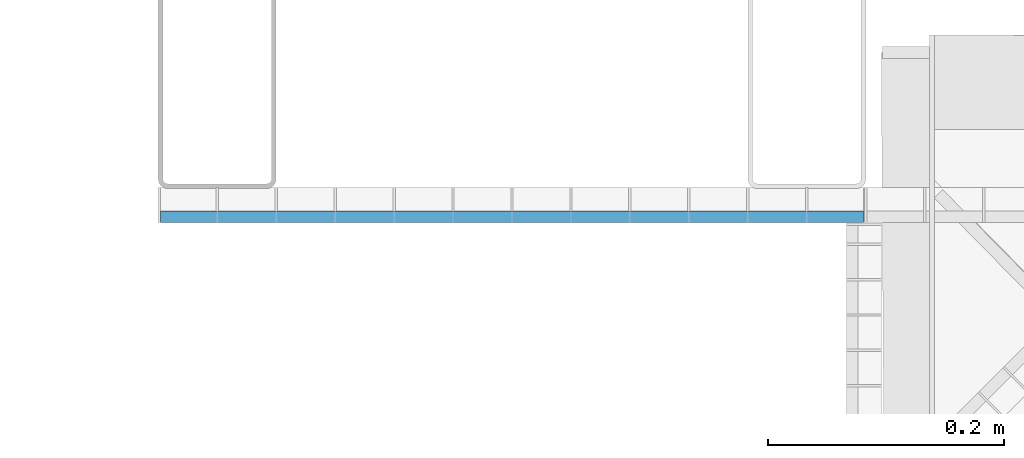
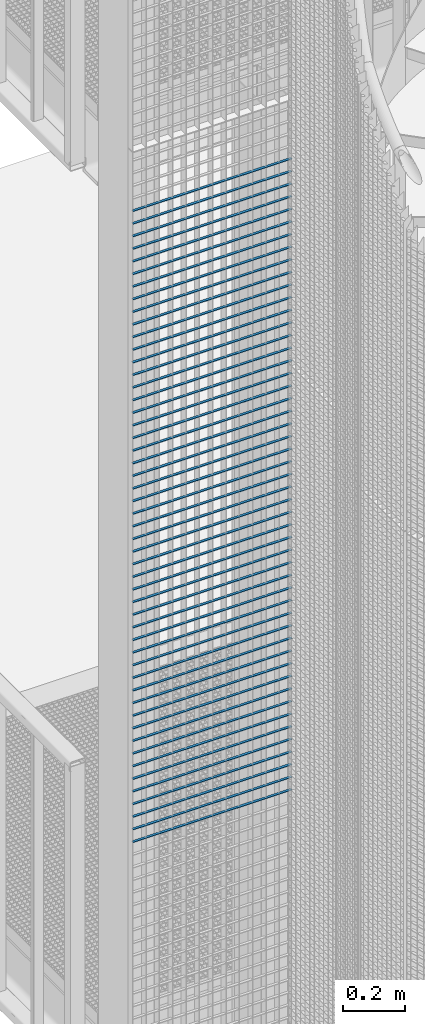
# One storey, part 335 of 1183: 51 beams, 51 elements without a shape of their own.
"""IFC2X3 building model written with IfcOpenShell, lengths in millimetres."""

from ifc_helpers import new_model, si_unit, frame, origin_with_axes, origin_2d_with_axis, place, context, subcontext, project, spatial, rectangle, extrude, material, type_object, element, aggregate, save


model = new_model("IFC2X3")

# Units and contexts
model_context = context("Model", 3, precision=1e-05, world=origin_with_axes())
body_context = subcontext(model_context, "Body", "Model", "MODEL_VIEW")
ifc_project = project(units=[si_unit("LENGTHUNIT", "METRE", prefix="MILLI"), si_unit("AREAUNIT", "SQUARE_METRE"), si_unit("VOLUMEUNIT", "CUBIC_METRE"), si_unit("MASSUNIT", "GRAM", prefix="KILO"), si_unit("TIMEUNIT", "SECOND"), si_unit("PLANEANGLEUNIT", "RADIAN"), si_unit("SOLIDANGLEUNIT", "STERADIAN"), si_unit("THERMODYNAMICTEMPERATUREUNIT", "DEGREE_CELSIUS"), si_unit("LUMINOUSINTENSITYUNIT", "LUMEN")], contexts=[model_context])

# Site, building, storey
site_placement = place(None, origin_with_axes())
site = spatial("IfcSite", under=ifc_project, at=site_placement, Name="Undefined", CompositionType="ELEMENT")
building_placement = place(site_placement, origin_with_axes())
building = spatial("IfcBuilding", under=site, at=building_placement, Name="Undefined", CompositionType="ELEMENT")
storey_placement = place(building_placement, origin_with_axes())
storey = spatial("IfcBuildingStorey", under=building, at=storey_placement, Name="Undefined", CompositionType="ELEMENT", Elevation=0.0)

# Assembly, beam
assembly_1_placement = place(storey_placement, origin_with_axes())
assembly_1 = element("IfcElementAssembly", 1, at=assembly_1_placement, inside=storey, AssemblyPlace="NOTDEFINED", PredefinedType="NOTDEFINED")
ifc_material = material(Name="STEEL/S235JR")
beam_type = type_object("IfcBeamType", Name="PL2*10", PredefinedType="NOTDEFINED")
beam_1_placement = place(assembly_1_placement, frame((20647.930410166, 876.014689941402, 9804.998), z_axis=(0.0, -1.0, 0.0), x_axis=(-1.0, 0.0, 0.0)))
beam_1 = element("IfcBeam", 2, at=beam_1_placement, type_object=beam_type, material=ifc_material, Name="ENTRETOISE", context=body_context, shape_type="SweptSolid", body=[
    extrude(rectangle(XDim=2.0, YDim=10.0, at=origin_2d_with_axis()), frame((596.0, 0.0, 0.0), z_axis=(-1.0, 0.0, 0.0), x_axis=(0.0, -1.0, 0.0)), (0.0, 0.0, 1.0), 596.0),
])
aggregate(assembly_1, [beam_1])

assembly_2_placement = place(storey_placement, origin_with_axes())
assembly_2 = element("IfcElementAssembly", 3, at=assembly_2_placement, inside=storey, AssemblyPlace="NOTDEFINED", PredefinedType="NOTDEFINED")
beam_2_placement = place(assembly_2_placement, frame((20647.930410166, 876.014689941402, 9754.998), z_axis=(0.0, -1.0, 0.0), x_axis=(-1.0, 0.0, 0.0)))
beam_2 = element("IfcBeam", 4, at=beam_2_placement, type_object=beam_type, material=ifc_material, Name="ENTRETOISE", context=body_context, shape_type="SweptSolid", body=[
    extrude(rectangle(XDim=2.0, YDim=10.0, at=origin_2d_with_axis()), frame((596.0, 0.0, 0.0), z_axis=(-1.0, 0.0, 0.0), x_axis=(0.0, -1.0, 0.0)), (0.0, 0.0, 1.0), 596.0),
])
aggregate(assembly_2, [beam_2])

assembly_3_placement = place(storey_placement, origin_with_axes())
assembly_3 = element("IfcElementAssembly", 5, at=assembly_3_placement, inside=storey, AssemblyPlace="NOTDEFINED", PredefinedType="NOTDEFINED")
beam_3_placement = place(assembly_3_placement, frame((20647.930410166, 876.014689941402, 9704.998), z_axis=(0.0, -1.0, 0.0), x_axis=(-1.0, 0.0, 0.0)))
beam_3 = element("IfcBeam", 6, at=beam_3_placement, type_object=beam_type, material=ifc_material, Name="ENTRETOISE", context=body_context, shape_type="SweptSolid", body=[
    extrude(rectangle(XDim=2.0, YDim=10.0, at=origin_2d_with_axis()), frame((596.0, 0.0, 0.0), z_axis=(-1.0, 0.0, 0.0), x_axis=(0.0, -1.0, 0.0)), (0.0, 0.0, 1.0), 596.0),
])
aggregate(assembly_3, [beam_3])

assembly_4_placement = place(storey_placement, origin_with_axes())
assembly_4 = element("IfcElementAssembly", 7, at=assembly_4_placement, inside=storey, AssemblyPlace="NOTDEFINED", PredefinedType="NOTDEFINED")
beam_4_placement = place(assembly_4_placement, frame((20647.930410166, 876.014689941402, 9654.998), z_axis=(0.0, -1.0, 0.0), x_axis=(-1.0, 0.0, 0.0)))
beam_4 = element("IfcBeam", 8, at=beam_4_placement, type_object=beam_type, material=ifc_material, Name="ENTRETOISE", context=body_context, shape_type="SweptSolid", body=[
    extrude(rectangle(XDim=2.0, YDim=10.0, at=origin_2d_with_axis()), frame((596.0, 0.0, 0.0), z_axis=(-1.0, 0.0, 0.0), x_axis=(0.0, -1.0, 0.0)), (0.0, 0.0, 1.0), 596.0),
])
aggregate(assembly_4, [beam_4])

assembly_5_placement = place(storey_placement, origin_with_axes())
assembly_5 = element("IfcElementAssembly", 9, at=assembly_5_placement, inside=storey, AssemblyPlace="NOTDEFINED", PredefinedType="NOTDEFINED")
beam_5_placement = place(assembly_5_placement, frame((20647.930410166, 876.014689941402, 9604.998), z_axis=(0.0, -1.0, 0.0), x_axis=(-1.0, 0.0, 0.0)))
beam_5 = element("IfcBeam", 10, at=beam_5_placement, type_object=beam_type, material=ifc_material, Name="ENTRETOISE", context=body_context, shape_type="SweptSolid", body=[
    extrude(rectangle(XDim=2.0, YDim=10.0, at=origin_2d_with_axis()), frame((596.0, 0.0, 0.0), z_axis=(-1.0, 0.0, 0.0), x_axis=(0.0, -1.0, 0.0)), (0.0, 0.0, 1.0), 596.0),
])
aggregate(assembly_5, [beam_5])

assembly_6_placement = place(storey_placement, origin_with_axes())
assembly_6 = element("IfcElementAssembly", 11, at=assembly_6_placement, inside=storey, AssemblyPlace="NOTDEFINED", PredefinedType="NOTDEFINED")
beam_6_placement = place(assembly_6_placement, frame((20647.930410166, 876.014689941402, 9554.998), z_axis=(0.0, -1.0, 0.0), x_axis=(-1.0, 0.0, 0.0)))
beam_6 = element("IfcBeam", 12, at=beam_6_placement, type_object=beam_type, material=ifc_material, Name="ENTRETOISE", context=body_context, shape_type="SweptSolid", body=[
    extrude(rectangle(XDim=2.0, YDim=10.0, at=origin_2d_with_axis()), frame((596.0, 0.0, 0.0), z_axis=(-1.0, 0.0, 0.0), x_axis=(0.0, -1.0, 0.0)), (0.0, 0.0, 1.0), 596.0),
])
aggregate(assembly_6, [beam_6])

assembly_7_placement = place(storey_placement, origin_with_axes())
assembly_7 = element("IfcElementAssembly", 13, at=assembly_7_placement, inside=storey, AssemblyPlace="NOTDEFINED", PredefinedType="NOTDEFINED")
beam_7_placement = place(assembly_7_placement, frame((20647.930410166, 876.014689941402, 9504.998), z_axis=(0.0, -1.0, 0.0), x_axis=(-1.0, 0.0, 0.0)))
beam_7 = element("IfcBeam", 14, at=beam_7_placement, type_object=beam_type, material=ifc_material, Name="ENTRETOISE", context=body_context, shape_type="SweptSolid", body=[
    extrude(rectangle(XDim=2.0, YDim=10.0, at=origin_2d_with_axis()), frame((596.0, 0.0, 0.0), z_axis=(-1.0, 0.0, 0.0), x_axis=(0.0, -1.0, 0.0)), (0.0, 0.0, 1.0), 596.0),
])
aggregate(assembly_7, [beam_7])

assembly_8_placement = place(storey_placement, origin_with_axes())
assembly_8 = element("IfcElementAssembly", 15, at=assembly_8_placement, inside=storey, AssemblyPlace="NOTDEFINED", PredefinedType="NOTDEFINED")
beam_8_placement = place(assembly_8_placement, frame((20647.930410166, 876.014689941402, 9454.998), z_axis=(0.0, -1.0, 0.0), x_axis=(-1.0, 0.0, 0.0)))
beam_8 = element("IfcBeam", 16, at=beam_8_placement, type_object=beam_type, material=ifc_material, Name="ENTRETOISE", context=body_context, shape_type="SweptSolid", body=[
    extrude(rectangle(XDim=2.0, YDim=10.0, at=origin_2d_with_axis()), frame((596.0, 0.0, 0.0), z_axis=(-1.0, 0.0, 0.0), x_axis=(0.0, -1.0, 0.0)), (0.0, 0.0, 1.0), 596.0),
])
aggregate(assembly_8, [beam_8])

assembly_9_placement = place(storey_placement, origin_with_axes())
assembly_9 = element("IfcElementAssembly", 17, at=assembly_9_placement, inside=storey, AssemblyPlace="NOTDEFINED", PredefinedType="NOTDEFINED")
beam_9_placement = place(assembly_9_placement, frame((20647.930410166, 876.014689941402, 9404.998), z_axis=(0.0, -1.0, 0.0), x_axis=(-1.0, 0.0, 0.0)))
beam_9 = element("IfcBeam", 18, at=beam_9_placement, type_object=beam_type, material=ifc_material, Name="ENTRETOISE", context=body_context, shape_type="SweptSolid", body=[
    extrude(rectangle(XDim=2.0, YDim=10.0, at=origin_2d_with_axis()), frame((596.0, 0.0, 0.0), z_axis=(-1.0, 0.0, 0.0), x_axis=(0.0, -1.0, 0.0)), (0.0, 0.0, 1.0), 596.0),
])
aggregate(assembly_9, [beam_9])

assembly_10_placement = place(storey_placement, origin_with_axes())
assembly_10 = element("IfcElementAssembly", 19, at=assembly_10_placement, inside=storey, AssemblyPlace="NOTDEFINED", PredefinedType="NOTDEFINED")
beam_10_placement = place(assembly_10_placement, frame((20647.930410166, 876.014689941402, 9354.998), z_axis=(0.0, -1.0, 0.0), x_axis=(-1.0, 0.0, 0.0)))
beam_10 = element("IfcBeam", 20, at=beam_10_placement, type_object=beam_type, material=ifc_material, Name="ENTRETOISE", context=body_context, shape_type="SweptSolid", body=[
    extrude(rectangle(XDim=2.0, YDim=10.0, at=origin_2d_with_axis()), frame((596.0, 0.0, 0.0), z_axis=(-1.0, 0.0, 0.0), x_axis=(0.0, -1.0, 0.0)), (0.0, 0.0, 1.0), 596.0),
])
aggregate(assembly_10, [beam_10])

assembly_11_placement = place(storey_placement, origin_with_axes())
assembly_11 = element("IfcElementAssembly", 21, at=assembly_11_placement, inside=storey, AssemblyPlace="NOTDEFINED", PredefinedType="NOTDEFINED")
beam_11_placement = place(assembly_11_placement, frame((20647.930410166, 876.014689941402, 9304.998), z_axis=(0.0, -1.0, 0.0), x_axis=(-1.0, 0.0, 0.0)))
beam_11 = element("IfcBeam", 22, at=beam_11_placement, type_object=beam_type, material=ifc_material, Name="ENTRETOISE", context=body_context, shape_type="SweptSolid", body=[
    extrude(rectangle(XDim=2.0, YDim=10.0, at=origin_2d_with_axis()), frame((596.0, 0.0, 0.0), z_axis=(-1.0, 0.0, 0.0), x_axis=(0.0, -1.0, 0.0)), (0.0, 0.0, 1.0), 596.0),
])
aggregate(assembly_11, [beam_11])

assembly_12_placement = place(storey_placement, origin_with_axes())
assembly_12 = element("IfcElementAssembly", 23, at=assembly_12_placement, inside=storey, AssemblyPlace="NOTDEFINED", PredefinedType="NOTDEFINED")
beam_12_placement = place(assembly_12_placement, frame((20647.930410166, 876.014689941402, 9254.998), z_axis=(0.0, -1.0, 0.0), x_axis=(-1.0, 0.0, 0.0)))
beam_12 = element("IfcBeam", 24, at=beam_12_placement, type_object=beam_type, material=ifc_material, Name="ENTRETOISE", context=body_context, shape_type="SweptSolid", body=[
    extrude(rectangle(XDim=2.0, YDim=10.0, at=origin_2d_with_axis()), frame((596.0, 0.0, 0.0), z_axis=(-1.0, 0.0, 0.0), x_axis=(0.0, -1.0, 0.0)), (0.0, 0.0, 1.0), 596.0),
])
aggregate(assembly_12, [beam_12])

assembly_13_placement = place(storey_placement, origin_with_axes())
assembly_13 = element("IfcElementAssembly", 25, at=assembly_13_placement, inside=storey, AssemblyPlace="NOTDEFINED", PredefinedType="NOTDEFINED")
beam_13_placement = place(assembly_13_placement, frame((20647.930410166, 876.014689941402, 9204.998), z_axis=(0.0, -1.0, 0.0), x_axis=(-1.0, 0.0, 0.0)))
beam_13 = element("IfcBeam", 26, at=beam_13_placement, type_object=beam_type, material=ifc_material, Name="ENTRETOISE", context=body_context, shape_type="SweptSolid", body=[
    extrude(rectangle(XDim=2.0, YDim=10.0, at=origin_2d_with_axis()), frame((596.0, 0.0, 0.0), z_axis=(-1.0, 0.0, 0.0), x_axis=(0.0, -1.0, 0.0)), (0.0, 0.0, 1.0), 596.0),
])
aggregate(assembly_13, [beam_13])

assembly_14_placement = place(storey_placement, origin_with_axes())
assembly_14 = element("IfcElementAssembly", 27, at=assembly_14_placement, inside=storey, AssemblyPlace="NOTDEFINED", PredefinedType="NOTDEFINED")
beam_14_placement = place(assembly_14_placement, frame((20647.930410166, 876.014689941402, 9154.998), z_axis=(0.0, -1.0, 0.0), x_axis=(-1.0, 0.0, 0.0)))
beam_14 = element("IfcBeam", 28, at=beam_14_placement, type_object=beam_type, material=ifc_material, Name="ENTRETOISE", context=body_context, shape_type="SweptSolid", body=[
    extrude(rectangle(XDim=2.0, YDim=10.0, at=origin_2d_with_axis()), frame((596.0, 0.0, 0.0), z_axis=(-1.0, 0.0, 0.0), x_axis=(0.0, -1.0, 0.0)), (0.0, 0.0, 1.0), 596.0),
])
aggregate(assembly_14, [beam_14])

assembly_15_placement = place(storey_placement, origin_with_axes())
assembly_15 = element("IfcElementAssembly", 29, at=assembly_15_placement, inside=storey, AssemblyPlace="NOTDEFINED", PredefinedType="NOTDEFINED")
beam_15_placement = place(assembly_15_placement, frame((20647.930410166, 876.014689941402, 9104.998), z_axis=(0.0, -1.0, 0.0), x_axis=(-1.0, 0.0, 0.0)))
beam_15 = element("IfcBeam", 30, at=beam_15_placement, type_object=beam_type, material=ifc_material, Name="ENTRETOISE", context=body_context, shape_type="SweptSolid", body=[
    extrude(rectangle(XDim=2.0, YDim=10.0, at=origin_2d_with_axis()), frame((596.0, 0.0, 0.0), z_axis=(-1.0, 0.0, 0.0), x_axis=(0.0, -1.0, 0.0)), (0.0, 0.0, 1.0), 596.0),
])
aggregate(assembly_15, [beam_15])

assembly_16_placement = place(storey_placement, origin_with_axes())
assembly_16 = element("IfcElementAssembly", 31, at=assembly_16_placement, inside=storey, AssemblyPlace="NOTDEFINED", PredefinedType="NOTDEFINED")
beam_16_placement = place(assembly_16_placement, frame((20647.930410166, 876.014689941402, 9054.998), z_axis=(0.0, -1.0, 0.0), x_axis=(-1.0, 0.0, 0.0)))
beam_16 = element("IfcBeam", 32, at=beam_16_placement, type_object=beam_type, material=ifc_material, Name="ENTRETOISE", context=body_context, shape_type="SweptSolid", body=[
    extrude(rectangle(XDim=2.0, YDim=10.0, at=origin_2d_with_axis()), frame((596.0, 0.0, 0.0), z_axis=(-1.0, 0.0, 0.0), x_axis=(0.0, -1.0, 0.0)), (0.0, 0.0, 1.0), 596.0),
])
aggregate(assembly_16, [beam_16])

assembly_17_placement = place(storey_placement, origin_with_axes())
assembly_17 = element("IfcElementAssembly", 33, at=assembly_17_placement, inside=storey, AssemblyPlace="NOTDEFINED", PredefinedType="NOTDEFINED")
beam_17_placement = place(assembly_17_placement, frame((20647.930410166, 876.014689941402, 9004.998), z_axis=(0.0, -1.0, 0.0), x_axis=(-1.0, 0.0, 0.0)))
beam_17 = element("IfcBeam", 34, at=beam_17_placement, type_object=beam_type, material=ifc_material, Name="ENTRETOISE", context=body_context, shape_type="SweptSolid", body=[
    extrude(rectangle(XDim=2.0, YDim=10.0, at=origin_2d_with_axis()), frame((596.0, 0.0, 0.0), z_axis=(-1.0, 0.0, 0.0), x_axis=(0.0, -1.0, 0.0)), (0.0, 0.0, 1.0), 596.0),
])
aggregate(assembly_17, [beam_17])

assembly_18_placement = place(storey_placement, origin_with_axes())
assembly_18 = element("IfcElementAssembly", 35, at=assembly_18_placement, inside=storey, AssemblyPlace="NOTDEFINED", PredefinedType="NOTDEFINED")
beam_18_placement = place(assembly_18_placement, frame((20647.930410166, 876.014689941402, 8954.998), z_axis=(0.0, -1.0, 0.0), x_axis=(-1.0, 0.0, 0.0)))
beam_18 = element("IfcBeam", 36, at=beam_18_placement, type_object=beam_type, material=ifc_material, Name="ENTRETOISE", context=body_context, shape_type="SweptSolid", body=[
    extrude(rectangle(XDim=2.0, YDim=10.0, at=origin_2d_with_axis()), frame((596.0, 0.0, 0.0), z_axis=(-1.0, 0.0, 0.0), x_axis=(0.0, -1.0, 0.0)), (0.0, 0.0, 1.0), 596.0),
])
aggregate(assembly_18, [beam_18])

assembly_19_placement = place(storey_placement, origin_with_axes())
assembly_19 = element("IfcElementAssembly", 37, at=assembly_19_placement, inside=storey, AssemblyPlace="NOTDEFINED", PredefinedType="NOTDEFINED")
beam_19_placement = place(assembly_19_placement, frame((20647.930410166, 876.014689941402, 8904.998), z_axis=(0.0, -1.0, 0.0), x_axis=(-1.0, 0.0, 0.0)))
beam_19 = element("IfcBeam", 38, at=beam_19_placement, type_object=beam_type, material=ifc_material, Name="ENTRETOISE", context=body_context, shape_type="SweptSolid", body=[
    extrude(rectangle(XDim=2.0, YDim=10.0, at=origin_2d_with_axis()), frame((596.0, 0.0, 0.0), z_axis=(-1.0, 0.0, 0.0), x_axis=(0.0, -1.0, 0.0)), (0.0, 0.0, 1.0), 596.0),
])
aggregate(assembly_19, [beam_19])

assembly_20_placement = place(storey_placement, origin_with_axes())
assembly_20 = element("IfcElementAssembly", 39, at=assembly_20_placement, inside=storey, AssemblyPlace="NOTDEFINED", PredefinedType="NOTDEFINED")
beam_20_placement = place(assembly_20_placement, frame((20647.930410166, 876.014689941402, 8854.998), z_axis=(0.0, -1.0, 0.0), x_axis=(-1.0, 0.0, 0.0)))
beam_20 = element("IfcBeam", 40, at=beam_20_placement, type_object=beam_type, material=ifc_material, Name="ENTRETOISE", context=body_context, shape_type="SweptSolid", body=[
    extrude(rectangle(XDim=2.0, YDim=10.0, at=origin_2d_with_axis()), frame((596.0, 0.0, 0.0), z_axis=(-1.0, 0.0, 0.0), x_axis=(0.0, -1.0, 0.0)), (0.0, 0.0, 1.0), 596.0),
])
aggregate(assembly_20, [beam_20])

assembly_21_placement = place(storey_placement, origin_with_axes())
assembly_21 = element("IfcElementAssembly", 41, at=assembly_21_placement, inside=storey, AssemblyPlace="NOTDEFINED", PredefinedType="NOTDEFINED")
beam_21_placement = place(assembly_21_placement, frame((20647.930410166, 876.014689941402, 8804.998), z_axis=(0.0, -1.0, 0.0), x_axis=(-1.0, 0.0, 0.0)))
beam_21 = element("IfcBeam", 42, at=beam_21_placement, type_object=beam_type, material=ifc_material, Name="ENTRETOISE", context=body_context, shape_type="SweptSolid", body=[
    extrude(rectangle(XDim=2.0, YDim=10.0, at=origin_2d_with_axis()), frame((596.0, 0.0, 0.0), z_axis=(-1.0, 0.0, 0.0), x_axis=(0.0, -1.0, 0.0)), (0.0, 0.0, 1.0), 596.0),
])
aggregate(assembly_21, [beam_21])

assembly_22_placement = place(storey_placement, origin_with_axes())
assembly_22 = element("IfcElementAssembly", 43, at=assembly_22_placement, inside=storey, AssemblyPlace="NOTDEFINED", PredefinedType="NOTDEFINED")
beam_22_placement = place(assembly_22_placement, frame((20647.930410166, 876.014689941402, 8754.998), z_axis=(0.0, -1.0, 0.0), x_axis=(-1.0, 0.0, 0.0)))
beam_22 = element("IfcBeam", 44, at=beam_22_placement, type_object=beam_type, material=ifc_material, Name="ENTRETOISE", context=body_context, shape_type="SweptSolid", body=[
    extrude(rectangle(XDim=2.0, YDim=10.0, at=origin_2d_with_axis()), frame((596.0, 0.0, 0.0), z_axis=(-1.0, 0.0, 0.0), x_axis=(0.0, -1.0, 0.0)), (0.0, 0.0, 1.0), 596.0),
])
aggregate(assembly_22, [beam_22])

assembly_23_placement = place(storey_placement, origin_with_axes())
assembly_23 = element("IfcElementAssembly", 45, at=assembly_23_placement, inside=storey, AssemblyPlace="NOTDEFINED", PredefinedType="NOTDEFINED")
beam_23_placement = place(assembly_23_placement, frame((20647.930410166, 876.014689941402, 8704.998), z_axis=(0.0, -1.0, 0.0), x_axis=(-1.0, 0.0, 0.0)))
beam_23 = element("IfcBeam", 46, at=beam_23_placement, type_object=beam_type, material=ifc_material, Name="ENTRETOISE", context=body_context, shape_type="SweptSolid", body=[
    extrude(rectangle(XDim=2.0, YDim=10.0, at=origin_2d_with_axis()), frame((596.0, 0.0, 0.0), z_axis=(-1.0, 0.0, 0.0), x_axis=(0.0, -1.0, 0.0)), (0.0, 0.0, 1.0), 596.0),
])
aggregate(assembly_23, [beam_23])

assembly_24_placement = place(storey_placement, origin_with_axes())
assembly_24 = element("IfcElementAssembly", 47, at=assembly_24_placement, inside=storey, AssemblyPlace="NOTDEFINED", PredefinedType="NOTDEFINED")
beam_24_placement = place(assembly_24_placement, frame((20647.930410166, 876.014689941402, 8654.998), z_axis=(0.0, -1.0, 0.0), x_axis=(-1.0, 0.0, 0.0)))
beam_24 = element("IfcBeam", 48, at=beam_24_placement, type_object=beam_type, material=ifc_material, Name="ENTRETOISE", context=body_context, shape_type="SweptSolid", body=[
    extrude(rectangle(XDim=2.0, YDim=10.0, at=origin_2d_with_axis()), frame((596.0, 0.0, 0.0), z_axis=(-1.0, 0.0, 0.0), x_axis=(0.0, -1.0, 0.0)), (0.0, 0.0, 1.0), 596.0),
])
aggregate(assembly_24, [beam_24])

assembly_25_placement = place(storey_placement, origin_with_axes())
assembly_25 = element("IfcElementAssembly", 49, at=assembly_25_placement, inside=storey, AssemblyPlace="NOTDEFINED", PredefinedType="NOTDEFINED")
beam_25_placement = place(assembly_25_placement, frame((20647.930410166, 876.014689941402, 8604.998), z_axis=(0.0, -1.0, 0.0), x_axis=(-1.0, 0.0, 0.0)))
beam_25 = element("IfcBeam", 50, at=beam_25_placement, type_object=beam_type, material=ifc_material, Name="ENTRETOISE", context=body_context, shape_type="SweptSolid", body=[
    extrude(rectangle(XDim=2.0, YDim=10.0, at=origin_2d_with_axis()), frame((596.0, 0.0, 0.0), z_axis=(-1.0, 0.0, 0.0), x_axis=(0.0, -1.0, 0.0)), (0.0, 0.0, 1.0), 596.0),
])
aggregate(assembly_25, [beam_25])

assembly_26_placement = place(storey_placement, origin_with_axes())
assembly_26 = element("IfcElementAssembly", 51, at=assembly_26_placement, inside=storey, AssemblyPlace="NOTDEFINED", PredefinedType="NOTDEFINED")
beam_26_placement = place(assembly_26_placement, frame((20647.930410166, 876.014689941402, 8554.998), z_axis=(0.0, -1.0, 0.0), x_axis=(-1.0, 0.0, 0.0)))
beam_26 = element("IfcBeam", 52, at=beam_26_placement, type_object=beam_type, material=ifc_material, Name="ENTRETOISE", context=body_context, shape_type="SweptSolid", body=[
    extrude(rectangle(XDim=2.0, YDim=10.0, at=origin_2d_with_axis()), frame((596.0, 0.0, 0.0), z_axis=(-1.0, 0.0, 0.0), x_axis=(0.0, -1.0, 0.0)), (0.0, 0.0, 1.0), 596.0),
])
aggregate(assembly_26, [beam_26])

assembly_27_placement = place(storey_placement, origin_with_axes())
assembly_27 = element("IfcElementAssembly", 53, at=assembly_27_placement, inside=storey, AssemblyPlace="NOTDEFINED", PredefinedType="NOTDEFINED")
beam_27_placement = place(assembly_27_placement, frame((20647.930410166, 876.014689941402, 8504.998), z_axis=(0.0, -1.0, 0.0), x_axis=(-1.0, 0.0, 0.0)))
beam_27 = element("IfcBeam", 54, at=beam_27_placement, type_object=beam_type, material=ifc_material, Name="ENTRETOISE", context=body_context, shape_type="SweptSolid", body=[
    extrude(rectangle(XDim=2.0, YDim=10.0, at=origin_2d_with_axis()), frame((596.0, 0.0, 0.0), z_axis=(-1.0, 0.0, 0.0), x_axis=(0.0, -1.0, 0.0)), (0.0, 0.0, 1.0), 596.0),
])
aggregate(assembly_27, [beam_27])

assembly_28_placement = place(storey_placement, origin_with_axes())
assembly_28 = element("IfcElementAssembly", 55, at=assembly_28_placement, inside=storey, AssemblyPlace="NOTDEFINED", PredefinedType="NOTDEFINED")
beam_28_placement = place(assembly_28_placement, frame((20647.930410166, 876.014689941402, 8454.998), z_axis=(0.0, -1.0, 0.0), x_axis=(-1.0, 0.0, 0.0)))
beam_28 = element("IfcBeam", 56, at=beam_28_placement, type_object=beam_type, material=ifc_material, Name="ENTRETOISE", context=body_context, shape_type="SweptSolid", body=[
    extrude(rectangle(XDim=2.0, YDim=10.0, at=origin_2d_with_axis()), frame((596.0, 0.0, 0.0), z_axis=(-1.0, 0.0, 0.0), x_axis=(0.0, -1.0, 0.0)), (0.0, 0.0, 1.0), 596.0),
])
aggregate(assembly_28, [beam_28])

assembly_29_placement = place(storey_placement, origin_with_axes())
assembly_29 = element("IfcElementAssembly", 57, at=assembly_29_placement, inside=storey, AssemblyPlace="NOTDEFINED", PredefinedType="NOTDEFINED")
beam_29_placement = place(assembly_29_placement, frame((20647.930410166, 876.014689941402, 8404.998), z_axis=(0.0, -1.0, 0.0), x_axis=(-1.0, 0.0, 0.0)))
beam_29 = element("IfcBeam", 58, at=beam_29_placement, type_object=beam_type, material=ifc_material, Name="ENTRETOISE", context=body_context, shape_type="SweptSolid", body=[
    extrude(rectangle(XDim=2.0, YDim=10.0, at=origin_2d_with_axis()), frame((596.0, 0.0, 0.0), z_axis=(-1.0, 0.0, 0.0), x_axis=(0.0, -1.0, 0.0)), (0.0, 0.0, 1.0), 596.0),
])
aggregate(assembly_29, [beam_29])

assembly_30_placement = place(storey_placement, origin_with_axes())
assembly_30 = element("IfcElementAssembly", 59, at=assembly_30_placement, inside=storey, AssemblyPlace="NOTDEFINED", PredefinedType="NOTDEFINED")
beam_30_placement = place(assembly_30_placement, frame((20647.930410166, 876.014689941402, 8354.998), z_axis=(0.0, -1.0, 0.0), x_axis=(-1.0, 0.0, 0.0)))
beam_30 = element("IfcBeam", 60, at=beam_30_placement, type_object=beam_type, material=ifc_material, Name="ENTRETOISE", context=body_context, shape_type="SweptSolid", body=[
    extrude(rectangle(XDim=2.0, YDim=10.0, at=origin_2d_with_axis()), frame((596.0, 0.0, 0.0), z_axis=(-1.0, 0.0, 0.0), x_axis=(0.0, -1.0, 0.0)), (0.0, 0.0, 1.0), 596.0),
])
aggregate(assembly_30, [beam_30])

assembly_31_placement = place(storey_placement, origin_with_axes())
assembly_31 = element("IfcElementAssembly", 61, at=assembly_31_placement, inside=storey, AssemblyPlace="NOTDEFINED", PredefinedType="NOTDEFINED")
beam_31_placement = place(assembly_31_placement, frame((20647.930410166, 876.014689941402, 8304.998), z_axis=(0.0, -1.0, 0.0), x_axis=(-1.0, 0.0, 0.0)))
beam_31 = element("IfcBeam", 62, at=beam_31_placement, type_object=beam_type, material=ifc_material, Name="ENTRETOISE", context=body_context, shape_type="SweptSolid", body=[
    extrude(rectangle(XDim=2.0, YDim=10.0, at=origin_2d_with_axis()), frame((596.0, 0.0, 0.0), z_axis=(-1.0, 0.0, 0.0), x_axis=(0.0, -1.0, 0.0)), (0.0, 0.0, 1.0), 596.0),
])
aggregate(assembly_31, [beam_31])

assembly_32_placement = place(storey_placement, origin_with_axes())
assembly_32 = element("IfcElementAssembly", 63, at=assembly_32_placement, inside=storey, AssemblyPlace="NOTDEFINED", PredefinedType="NOTDEFINED")
beam_32_placement = place(assembly_32_placement, frame((20647.930410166, 876.014689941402, 8254.998), z_axis=(0.0, -1.0, 0.0), x_axis=(-1.0, 0.0, 0.0)))
beam_32 = element("IfcBeam", 64, at=beam_32_placement, type_object=beam_type, material=ifc_material, Name="ENTRETOISE", context=body_context, shape_type="SweptSolid", body=[
    extrude(rectangle(XDim=2.0, YDim=10.0, at=origin_2d_with_axis()), frame((596.0, 0.0, 0.0), z_axis=(-1.0, 0.0, 0.0), x_axis=(0.0, -1.0, 0.0)), (0.0, 0.0, 1.0), 596.0),
])
aggregate(assembly_32, [beam_32])

assembly_33_placement = place(storey_placement, origin_with_axes())
assembly_33 = element("IfcElementAssembly", 65, at=assembly_33_placement, inside=storey, AssemblyPlace="NOTDEFINED", PredefinedType="NOTDEFINED")
beam_33_placement = place(assembly_33_placement, frame((20647.930410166, 876.014689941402, 8204.998), z_axis=(0.0, -1.0, 0.0), x_axis=(-1.0, 0.0, 0.0)))
beam_33 = element("IfcBeam", 66, at=beam_33_placement, type_object=beam_type, material=ifc_material, Name="ENTRETOISE", context=body_context, shape_type="SweptSolid", body=[
    extrude(rectangle(XDim=2.0, YDim=10.0, at=origin_2d_with_axis()), frame((596.0, 0.0, 0.0), z_axis=(-1.0, 0.0, 0.0), x_axis=(0.0, -1.0, 0.0)), (0.0, 0.0, 1.0), 596.0),
])
aggregate(assembly_33, [beam_33])

assembly_34_placement = place(storey_placement, origin_with_axes())
assembly_34 = element("IfcElementAssembly", 67, at=assembly_34_placement, inside=storey, AssemblyPlace="NOTDEFINED", PredefinedType="NOTDEFINED")
beam_34_placement = place(assembly_34_placement, frame((20647.930410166, 876.014689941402, 8154.998), z_axis=(0.0, -1.0, 0.0), x_axis=(-1.0, 0.0, 0.0)))
beam_34 = element("IfcBeam", 68, at=beam_34_placement, type_object=beam_type, material=ifc_material, Name="ENTRETOISE", context=body_context, shape_type="SweptSolid", body=[
    extrude(rectangle(XDim=2.0, YDim=10.0, at=origin_2d_with_axis()), frame((596.0, 0.0, 0.0), z_axis=(-1.0, 0.0, 0.0), x_axis=(0.0, -1.0, 0.0)), (0.0, 0.0, 1.0), 596.0),
])
aggregate(assembly_34, [beam_34])

assembly_35_placement = place(storey_placement, origin_with_axes())
assembly_35 = element("IfcElementAssembly", 69, at=assembly_35_placement, inside=storey, AssemblyPlace="NOTDEFINED", PredefinedType="NOTDEFINED")
beam_35_placement = place(assembly_35_placement, frame((20647.930410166, 876.014689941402, 8104.998), z_axis=(0.0, -1.0, 0.0), x_axis=(-1.0, 0.0, 0.0)))
beam_35 = element("IfcBeam", 70, at=beam_35_placement, type_object=beam_type, material=ifc_material, Name="ENTRETOISE", context=body_context, shape_type="SweptSolid", body=[
    extrude(rectangle(XDim=2.0, YDim=10.0, at=origin_2d_with_axis()), frame((596.0, 0.0, 0.0), z_axis=(-1.0, 0.0, 0.0), x_axis=(0.0, -1.0, 0.0)), (0.0, 0.0, 1.0), 596.0),
])
aggregate(assembly_35, [beam_35])

assembly_36_placement = place(storey_placement, origin_with_axes())
assembly_36 = element("IfcElementAssembly", 71, at=assembly_36_placement, inside=storey, AssemblyPlace="NOTDEFINED", PredefinedType="NOTDEFINED")
beam_36_placement = place(assembly_36_placement, frame((20647.930410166, 876.014689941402, 8054.998), z_axis=(0.0, -1.0, 0.0), x_axis=(-1.0, 0.0, 0.0)))
beam_36 = element("IfcBeam", 72, at=beam_36_placement, type_object=beam_type, material=ifc_material, Name="ENTRETOISE", context=body_context, shape_type="SweptSolid", body=[
    extrude(rectangle(XDim=2.0, YDim=10.0, at=origin_2d_with_axis()), frame((596.0, 0.0, 0.0), z_axis=(-1.0, 0.0, 0.0), x_axis=(0.0, -1.0, 0.0)), (0.0, 0.0, 1.0), 596.0),
])
aggregate(assembly_36, [beam_36])

assembly_37_placement = place(storey_placement, origin_with_axes())
assembly_37 = element("IfcElementAssembly", 73, at=assembly_37_placement, inside=storey, AssemblyPlace="NOTDEFINED", PredefinedType="NOTDEFINED")
beam_37_placement = place(assembly_37_placement, frame((20647.930410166, 876.014689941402, 8004.998), z_axis=(0.0, -1.0, 0.0), x_axis=(-1.0, 0.0, 0.0)))
beam_37 = element("IfcBeam", 74, at=beam_37_placement, type_object=beam_type, material=ifc_material, Name="ENTRETOISE", context=body_context, shape_type="SweptSolid", body=[
    extrude(rectangle(XDim=2.0, YDim=10.0, at=origin_2d_with_axis()), frame((596.0, 0.0, 0.0), z_axis=(-1.0, 0.0, 0.0), x_axis=(0.0, -1.0, 0.0)), (0.0, 0.0, 1.0), 596.0),
])
aggregate(assembly_37, [beam_37])

assembly_38_placement = place(storey_placement, origin_with_axes())
assembly_38 = element("IfcElementAssembly", 75, at=assembly_38_placement, inside=storey, AssemblyPlace="NOTDEFINED", PredefinedType="NOTDEFINED")
beam_38_placement = place(assembly_38_placement, frame((20647.930410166, 876.014689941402, 7954.998), z_axis=(0.0, -1.0, 0.0), x_axis=(-1.0, 0.0, 0.0)))
beam_38 = element("IfcBeam", 76, at=beam_38_placement, type_object=beam_type, material=ifc_material, Name="ENTRETOISE", context=body_context, shape_type="SweptSolid", body=[
    extrude(rectangle(XDim=2.0, YDim=10.0, at=origin_2d_with_axis()), frame((596.0, 0.0, 0.0), z_axis=(-1.0, 0.0, 0.0), x_axis=(0.0, -1.0, 0.0)), (0.0, 0.0, 1.0), 596.0),
])
aggregate(assembly_38, [beam_38])

assembly_39_placement = place(storey_placement, origin_with_axes())
assembly_39 = element("IfcElementAssembly", 77, at=assembly_39_placement, inside=storey, AssemblyPlace="NOTDEFINED", PredefinedType="NOTDEFINED")
beam_39_placement = place(assembly_39_placement, frame((20647.930410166, 876.014689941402, 7904.998), z_axis=(0.0, -1.0, 0.0), x_axis=(-1.0, 0.0, 0.0)))
beam_39 = element("IfcBeam", 78, at=beam_39_placement, type_object=beam_type, material=ifc_material, Name="ENTRETOISE", context=body_context, shape_type="SweptSolid", body=[
    extrude(rectangle(XDim=2.0, YDim=10.0, at=origin_2d_with_axis()), frame((596.0, 0.0, 0.0), z_axis=(-1.0, 0.0, 0.0), x_axis=(0.0, -1.0, 0.0)), (0.0, 0.0, 1.0), 596.0),
])
aggregate(assembly_39, [beam_39])

assembly_40_placement = place(storey_placement, origin_with_axes())
assembly_40 = element("IfcElementAssembly", 79, at=assembly_40_placement, inside=storey, AssemblyPlace="NOTDEFINED", PredefinedType="NOTDEFINED")
beam_40_placement = place(assembly_40_placement, frame((20647.930410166, 876.014689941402, 7854.998), z_axis=(0.0, -1.0, 0.0), x_axis=(-1.0, 0.0, 0.0)))
beam_40 = element("IfcBeam", 80, at=beam_40_placement, type_object=beam_type, material=ifc_material, Name="ENTRETOISE", context=body_context, shape_type="SweptSolid", body=[
    extrude(rectangle(XDim=2.0, YDim=10.0, at=origin_2d_with_axis()), frame((596.0, 0.0, 0.0), z_axis=(-1.0, 0.0, 0.0), x_axis=(0.0, -1.0, 0.0)), (0.0, 0.0, 1.0), 596.0),
])
aggregate(assembly_40, [beam_40])

assembly_41_placement = place(storey_placement, origin_with_axes())
assembly_41 = element("IfcElementAssembly", 81, at=assembly_41_placement, inside=storey, AssemblyPlace="NOTDEFINED", PredefinedType="NOTDEFINED")
beam_41_placement = place(assembly_41_placement, frame((20647.930410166, 876.014689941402, 7804.998), z_axis=(0.0, -1.0, 0.0), x_axis=(-1.0, 0.0, 0.0)))
beam_41 = element("IfcBeam", 82, at=beam_41_placement, type_object=beam_type, material=ifc_material, Name="ENTRETOISE", context=body_context, shape_type="SweptSolid", body=[
    extrude(rectangle(XDim=2.0, YDim=10.0, at=origin_2d_with_axis()), frame((596.0, 0.0, 0.0), z_axis=(-1.0, 0.0, 0.0), x_axis=(0.0, -1.0, 0.0)), (0.0, 0.0, 1.0), 596.0),
])
aggregate(assembly_41, [beam_41])

assembly_42_placement = place(storey_placement, origin_with_axes())
assembly_42 = element("IfcElementAssembly", 83, at=assembly_42_placement, inside=storey, AssemblyPlace="NOTDEFINED", PredefinedType="NOTDEFINED")
beam_42_placement = place(assembly_42_placement, frame((20647.930410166, 876.014689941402, 7754.998), z_axis=(0.0, -1.0, 0.0), x_axis=(-1.0, 0.0, 0.0)))
beam_42 = element("IfcBeam", 84, at=beam_42_placement, type_object=beam_type, material=ifc_material, Name="ENTRETOISE", context=body_context, shape_type="SweptSolid", body=[
    extrude(rectangle(XDim=2.0, YDim=10.0, at=origin_2d_with_axis()), frame((596.0, 0.0, 0.0), z_axis=(-1.0, 0.0, 0.0), x_axis=(0.0, -1.0, 0.0)), (0.0, 0.0, 1.0), 596.0),
])
aggregate(assembly_42, [beam_42])

assembly_43_placement = place(storey_placement, origin_with_axes())
assembly_43 = element("IfcElementAssembly", 85, at=assembly_43_placement, inside=storey, AssemblyPlace="NOTDEFINED", PredefinedType="NOTDEFINED")
beam_43_placement = place(assembly_43_placement, frame((20647.930410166, 876.014689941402, 7704.998), z_axis=(0.0, -1.0, 0.0), x_axis=(-1.0, 0.0, 0.0)))
beam_43 = element("IfcBeam", 86, at=beam_43_placement, type_object=beam_type, material=ifc_material, Name="ENTRETOISE", context=body_context, shape_type="SweptSolid", body=[
    extrude(rectangle(XDim=2.0, YDim=10.0, at=origin_2d_with_axis()), frame((596.0, 0.0, 0.0), z_axis=(-1.0, 0.0, 0.0), x_axis=(0.0, -1.0, 0.0)), (0.0, 0.0, 1.0), 596.0),
])
aggregate(assembly_43, [beam_43])

assembly_44_placement = place(storey_placement, origin_with_axes())
assembly_44 = element("IfcElementAssembly", 87, at=assembly_44_placement, inside=storey, AssemblyPlace="NOTDEFINED", PredefinedType="NOTDEFINED")
beam_44_placement = place(assembly_44_placement, frame((20647.930410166, 876.014689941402, 7654.998), z_axis=(0.0, -1.0, 0.0), x_axis=(-1.0, 0.0, 0.0)))
beam_44 = element("IfcBeam", 88, at=beam_44_placement, type_object=beam_type, material=ifc_material, Name="ENTRETOISE", context=body_context, shape_type="SweptSolid", body=[
    extrude(rectangle(XDim=2.0, YDim=10.0, at=origin_2d_with_axis()), frame((596.0, 0.0, 0.0), z_axis=(-1.0, 0.0, 0.0), x_axis=(0.0, -1.0, 0.0)), (0.0, 0.0, 1.0), 596.0),
])
aggregate(assembly_44, [beam_44])

assembly_45_placement = place(storey_placement, origin_with_axes())
assembly_45 = element("IfcElementAssembly", 89, at=assembly_45_placement, inside=storey, AssemblyPlace="NOTDEFINED", PredefinedType="NOTDEFINED")
beam_45_placement = place(assembly_45_placement, frame((20647.930410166, 876.014689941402, 7604.998), z_axis=(0.0, -1.0, 0.0), x_axis=(-1.0, 0.0, 0.0)))
beam_45 = element("IfcBeam", 90, at=beam_45_placement, type_object=beam_type, material=ifc_material, Name="ENTRETOISE", context=body_context, shape_type="SweptSolid", body=[
    extrude(rectangle(XDim=2.0, YDim=10.0, at=origin_2d_with_axis()), frame((596.0, 0.0, 0.0), z_axis=(-1.0, 0.0, 0.0), x_axis=(0.0, -1.0, 0.0)), (0.0, 0.0, 1.0), 596.0),
])
aggregate(assembly_45, [beam_45])

assembly_46_placement = place(storey_placement, origin_with_axes())
assembly_46 = element("IfcElementAssembly", 91, at=assembly_46_placement, inside=storey, AssemblyPlace="NOTDEFINED", PredefinedType="NOTDEFINED")
beam_46_placement = place(assembly_46_placement, frame((20647.930410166, 876.014689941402, 7554.998), z_axis=(0.0, -1.0, 0.0), x_axis=(-1.0, 0.0, 0.0)))
beam_46 = element("IfcBeam", 92, at=beam_46_placement, type_object=beam_type, material=ifc_material, Name="ENTRETOISE", context=body_context, shape_type="SweptSolid", body=[
    extrude(rectangle(XDim=2.0, YDim=10.0, at=origin_2d_with_axis()), frame((596.0, 0.0, 0.0), z_axis=(-1.0, 0.0, 0.0), x_axis=(0.0, -1.0, 0.0)), (0.0, 0.0, 1.0), 596.0),
])
aggregate(assembly_46, [beam_46])

assembly_47_placement = place(storey_placement, origin_with_axes())
assembly_47 = element("IfcElementAssembly", 93, at=assembly_47_placement, inside=storey, AssemblyPlace="NOTDEFINED", PredefinedType="NOTDEFINED")
beam_47_placement = place(assembly_47_placement, frame((20647.930410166, 876.014689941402, 7504.998), z_axis=(0.0, -1.0, 0.0), x_axis=(-1.0, 0.0, 0.0)))
beam_47 = element("IfcBeam", 94, at=beam_47_placement, type_object=beam_type, material=ifc_material, Name="ENTRETOISE", context=body_context, shape_type="SweptSolid", body=[
    extrude(rectangle(XDim=2.0, YDim=10.0, at=origin_2d_with_axis()), frame((596.0, 0.0, 0.0), z_axis=(-1.0, 0.0, 0.0), x_axis=(0.0, -1.0, 0.0)), (0.0, 0.0, 1.0), 596.0),
])
aggregate(assembly_47, [beam_47])

assembly_48_placement = place(storey_placement, origin_with_axes())
assembly_48 = element("IfcElementAssembly", 95, at=assembly_48_placement, inside=storey, AssemblyPlace="NOTDEFINED", PredefinedType="NOTDEFINED")
beam_48_placement = place(assembly_48_placement, frame((20647.930410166, 876.014689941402, 7454.998), z_axis=(0.0, -1.0, 0.0), x_axis=(-1.0, 0.0, 0.0)))
beam_48 = element("IfcBeam", 96, at=beam_48_placement, type_object=beam_type, material=ifc_material, Name="ENTRETOISE", context=body_context, shape_type="SweptSolid", body=[
    extrude(rectangle(XDim=2.0, YDim=10.0, at=origin_2d_with_axis()), frame((596.0, 0.0, 0.0), z_axis=(-1.0, 0.0, 0.0), x_axis=(0.0, -1.0, 0.0)), (0.0, 0.0, 1.0), 596.0),
])
aggregate(assembly_48, [beam_48])

assembly_49_placement = place(storey_placement, origin_with_axes())
assembly_49 = element("IfcElementAssembly", 97, at=assembly_49_placement, inside=storey, AssemblyPlace="NOTDEFINED", PredefinedType="NOTDEFINED")
beam_49_placement = place(assembly_49_placement, frame((20647.930410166, 876.014689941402, 7404.998), z_axis=(0.0, -1.0, 0.0), x_axis=(-1.0, 0.0, 0.0)))
beam_49 = element("IfcBeam", 98, at=beam_49_placement, type_object=beam_type, material=ifc_material, Name="ENTRETOISE", context=body_context, shape_type="SweptSolid", body=[
    extrude(rectangle(XDim=2.0, YDim=10.0, at=origin_2d_with_axis()), frame((596.0, 0.0, 0.0), z_axis=(-1.0, 0.0, 0.0), x_axis=(0.0, -1.0, 0.0)), (0.0, 0.0, 1.0), 596.0),
])
aggregate(assembly_49, [beam_49])

assembly_50_placement = place(storey_placement, origin_with_axes())
assembly_50 = element("IfcElementAssembly", 99, at=assembly_50_placement, inside=storey, AssemblyPlace="NOTDEFINED", PredefinedType="NOTDEFINED")
beam_50_placement = place(assembly_50_placement, frame((20647.930410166, 876.014689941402, 7354.998), z_axis=(0.0, -1.0, 0.0), x_axis=(-1.0, 0.0, 0.0)))
beam_50 = element("IfcBeam", 100, at=beam_50_placement, type_object=beam_type, material=ifc_material, Name="ENTRETOISE", context=body_context, shape_type="SweptSolid", body=[
    extrude(rectangle(XDim=2.0, YDim=10.0, at=origin_2d_with_axis()), frame((596.0, 0.0, 0.0), z_axis=(-1.0, 0.0, 0.0), x_axis=(0.0, -1.0, 0.0)), (0.0, 0.0, 1.0), 596.0),
])
aggregate(assembly_50, [beam_50])

assembly_51_placement = place(storey_placement, origin_with_axes())
assembly_51 = element("IfcElementAssembly", 101, at=assembly_51_placement, inside=storey, AssemblyPlace="NOTDEFINED", PredefinedType="NOTDEFINED")
beam_51_placement = place(assembly_51_placement, frame((20647.930410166, 876.014689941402, 7304.998), z_axis=(0.0, -1.0, 0.0), x_axis=(-1.0, 0.0, 0.0)))
beam_51 = element("IfcBeam", 102, at=beam_51_placement, type_object=beam_type, material=ifc_material, Name="ENTRETOISE", context=body_context, shape_type="SweptSolid", body=[
    extrude(rectangle(XDim=2.0, YDim=10.0, at=origin_2d_with_axis()), frame((596.0, 0.0, 0.0), z_axis=(-1.0, 0.0, 0.0), x_axis=(0.0, -1.0, 0.0)), (0.0, 0.0, 1.0), 596.0),
])
aggregate(assembly_51, [beam_51])

save(model, "model.ifc")
